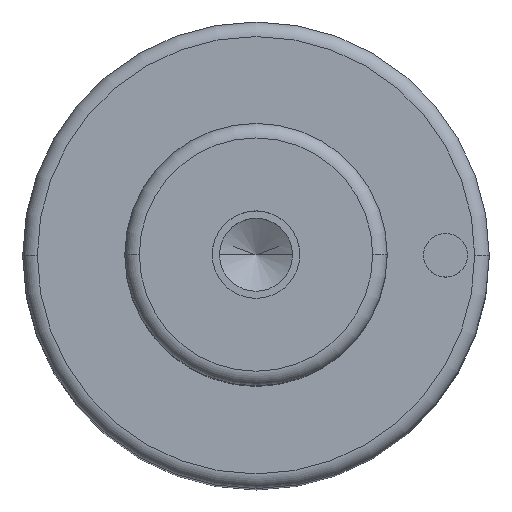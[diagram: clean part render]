
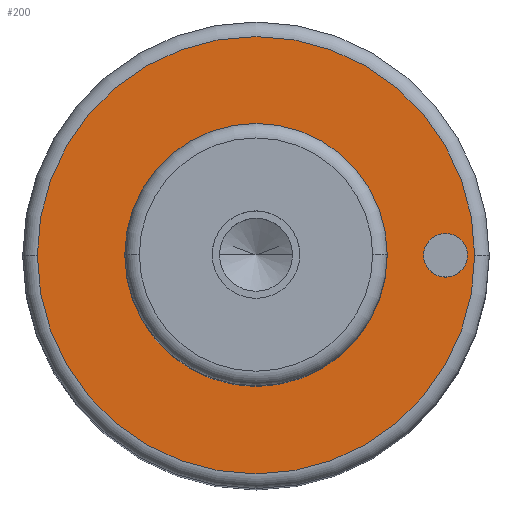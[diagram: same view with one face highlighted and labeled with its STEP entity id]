
A CAD part, top view. The second image highlights one B-rep face of the part: STEP entity #200.
In plain terms, the highlighted planar face has unit normal (0, 0, 1).
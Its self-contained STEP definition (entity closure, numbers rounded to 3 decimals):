
#99=PLANE('',#596);
#107=FACE_BOUND('',#265,.T.);
#108=FACE_BOUND('',#266,.T.);
#109=FACE_BOUND('',#267,.T.);
#200=ADVANCED_FACE('',(#107,#108,#109),#99,.T.);
#265=EDGE_LOOP('',(#359,#360));
#266=EDGE_LOOP('',(#361,#362));
#267=EDGE_LOOP('',(#363,#364));
#359=ORIENTED_EDGE('',*,*,#460,.F.);
#360=ORIENTED_EDGE('',*,*,#461,.F.);
#361=ORIENTED_EDGE('',*,*,#485,.F.);
#362=ORIENTED_EDGE('',*,*,#486,.F.);
#363=ORIENTED_EDGE('',*,*,#456,.T.);
#364=ORIENTED_EDGE('',*,*,#454,.T.);
#411=VERTEX_POINT('',#808);
#412=VERTEX_POINT('',#810);
#413=VERTEX_POINT('',#816);
#416=VERTEX_POINT('',#821);
#430=VERTEX_POINT('',#875);
#431=VERTEX_POINT('',#876);
#454=EDGE_CURVE('',#412,#411,#513,.T.);
#456=EDGE_CURVE('',#411,#412,#514,.T.);
#460=EDGE_CURVE('',#416,#413,#518,.T.);
#461=EDGE_CURVE('',#413,#416,#519,.T.);
#485=EDGE_CURVE('',#430,#431,#533,.T.);
#486=EDGE_CURVE('',#431,#430,#534,.T.);
#513=CIRCLE('',#558,9.);
#514=CIRCLE('',#560,9.);
#518=CIRCLE('',#565,15.);
#519=CIRCLE('',#567,15.);
#533=CIRCLE('',#594,1.5);
#534=CIRCLE('',#595,1.5);
#558=AXIS2_PLACEMENT_3D('',#809,#647,#648);
#560=AXIS2_PLACEMENT_3D('',#813,#652,#653);
#565=AXIS2_PLACEMENT_3D('',#822,#662,#663);
#567=AXIS2_PLACEMENT_3D('',#824,#666,#667);
#594=AXIS2_PLACEMENT_3D('',#874,#730,#731);
#595=AXIS2_PLACEMENT_3D('',#877,#732,#733);
#596=AXIS2_PLACEMENT_3D('',#878,#734,#735);
#647=DIRECTION('',(0.,0.,-1.));
#648=DIRECTION('',(0.,1.,0.));
#652=DIRECTION('',(0.,0.,-1.));
#653=DIRECTION('',(0.,-1.,0.));
#662=DIRECTION('',(0.,0.,-1.));
#663=DIRECTION('',(0.,1.,0.));
#666=DIRECTION('',(0.,0.,-1.));
#667=DIRECTION('',(0.,-1.,0.));
#730=DIRECTION('',(0.,0.,1.));
#731=DIRECTION('',(0.,1.,0.));
#732=DIRECTION('',(0.,0.,1.));
#733=DIRECTION('',(0.,-1.,0.));
#734=DIRECTION('',(0.,0.,1.));
#735=DIRECTION('',(0.,-1.,0.));
#808=CARTESIAN_POINT('',(-9.,0.,59.));
#809=CARTESIAN_POINT('',(0.,0.,59.));
#810=CARTESIAN_POINT('',(9.,0.,59.));
#813=CARTESIAN_POINT('',(0.,0.,59.));
#816=CARTESIAN_POINT('',(-15.,0.,59.));
#821=CARTESIAN_POINT('',(15.,0.,59.));
#822=CARTESIAN_POINT('',(0.,0.,59.));
#824=CARTESIAN_POINT('',(0.,0.,59.));
#874=CARTESIAN_POINT('',(13.,0.,59.));
#875=CARTESIAN_POINT('',(11.5,0.,59.));
#876=CARTESIAN_POINT('',(14.5,0.,59.));
#877=CARTESIAN_POINT('',(13.,0.,59.));
#878=CARTESIAN_POINT('',(0.,0.,59.));
